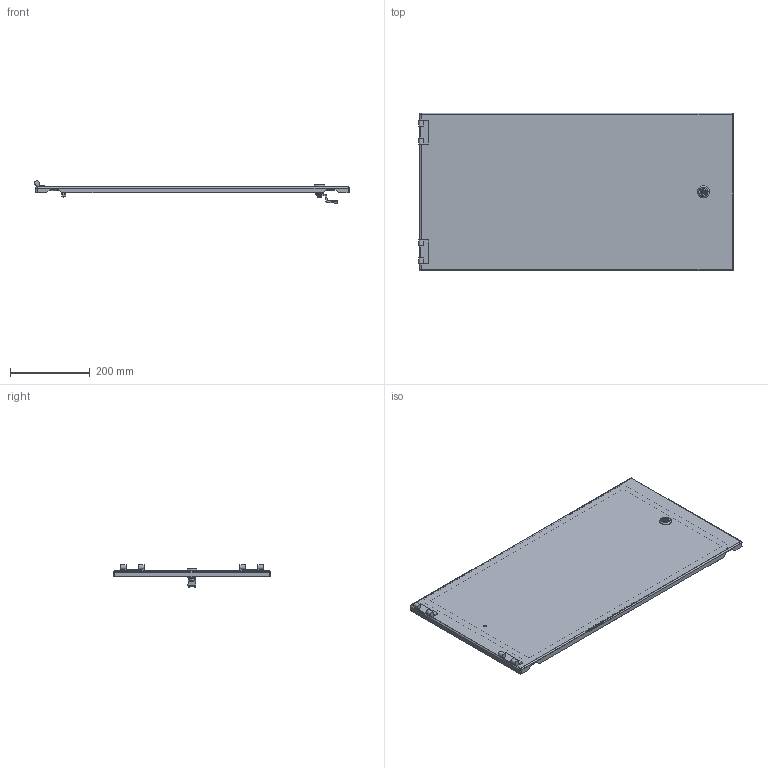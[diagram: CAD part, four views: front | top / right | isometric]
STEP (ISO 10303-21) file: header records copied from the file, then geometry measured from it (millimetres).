
FILE_DESCRIPTION (( 'STEP AP214' ), '1' );
FILE_NAME ('D 40.80 M Äâåðü ñåêöèîííàÿ ãëóõàÿ.STEP', '2016-10-10T07:02:28', ( '' ), ( '' ), 'SwSTEP 2.0', 'SolidWorks 2012', '' );
FILE_SCHEMA (( 'AUTOMOTIVE_DESIGN' ));
Length unit declared in the file: millimetre
Products named in the file (1): D 40.80 M Äâåðü ñåêöèîííàÿ ãëóõàÿ
Bounding box: 788.2 x 394 x 56.33 mm (x, y, z)
Volume: 915836.5 mm3; surface area: 778907.6 mm2
Topology: 7 solids, 7 shells, 341 faces, 864 edges, 542 vertices
Faces by surface type: plane 159, cylinder 114, cone 36, torus 13, bspline 11, sphere 8
Entity records: 10952 total; most frequent: CARTESIAN_POINT 2504, DIRECTION 1730, ORIENTED_EDGE 1712, EDGE_CURVE 856, AXIS2_PLACEMENT_3D 624, VERTEX_POINT 542, VECTOR 482, LINE 482
